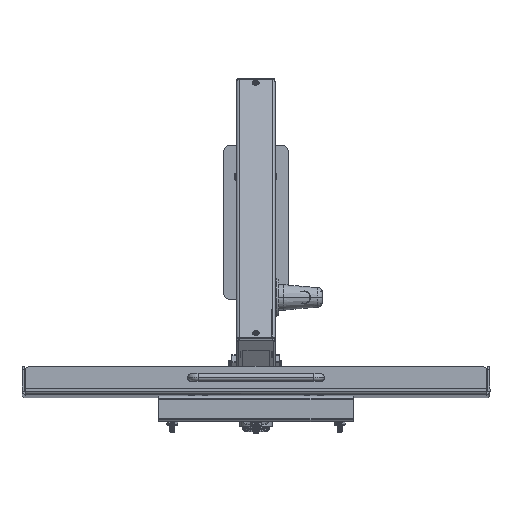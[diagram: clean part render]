
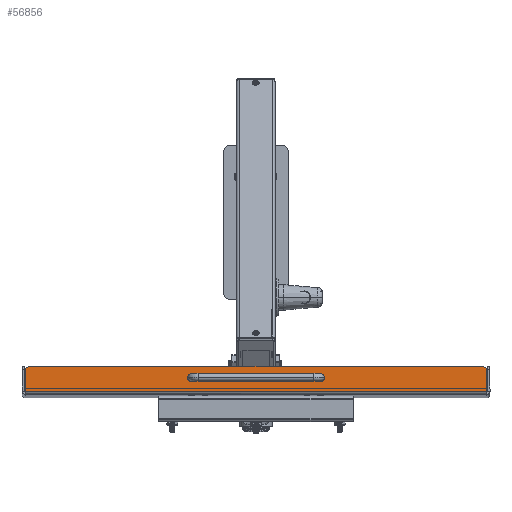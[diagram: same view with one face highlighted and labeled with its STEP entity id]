
A CAD part, top view. The second image highlights one B-rep face of the part: STEP entity #56856.
In plain terms, the highlighted planar face has unit normal (0, 0.01, 1) as drawn and (0, 0, 1) by its records, which use the part's own axes.
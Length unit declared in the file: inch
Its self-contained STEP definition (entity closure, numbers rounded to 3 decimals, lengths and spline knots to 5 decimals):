
#89 = ORIENTED_EDGE ( 'NONE', *, *, #13319, .F. ) ;
#914 = DIRECTION ( 'NONE',  ( 0., 0., -1. ) ) ;
#2258 = AXIS2_PLACEMENT_3D ( 'NONE', #13916, #48762, #70318 ) ;
#2276 = CIRCLE ( 'NONE', #57933, 0.25 ) ;
#3273 = EDGE_CURVE ( 'NONE', #5293, #90556, #36046, .T. ) ;
#4610 = VERTEX_POINT ( 'NONE', #73551 ) ;
#4622 = DIRECTION ( 'NONE',  ( -1., 0., 0. ) ) ;
#5180 = ORIENTED_EDGE ( 'NONE', *, *, #22676, .F. ) ;
#5293 = VERTEX_POINT ( 'NONE', #59599 ) ;
#6379 = LINE ( 'NONE', #13265, #66486 ) ;
#6605 = AXIS2_PLACEMENT_3D ( 'NONE', #15968, #43966, #22844 ) ;
#7361 = CARTESIAN_POINT ( 'NONE',  ( 8.96464, 0.032, 6.09 ) ) ;
#7598 = ORIENTED_EDGE ( 'NONE', *, *, #55041, .F. ) ;
#8336 = DIRECTION ( 'NONE',  ( 0., -1., 0. ) ) ;
#9438 = AXIS2_PLACEMENT_3D ( 'NONE', #34922, #76621, #42729 ) ;
#11834 = CARTESIAN_POINT ( 'NONE',  ( -8.75, 1., 6.09 ) ) ;
#12000 = CARTESIAN_POINT ( 'NONE',  ( 8.75, 1., 6.09 ) ) ;
#12210 = EDGE_CURVE ( 'NONE', #32648, #40557, #43191, .T. ) ;
#13265 = CARTESIAN_POINT ( 'NONE',  ( 8.75, 0.032, 6.09 ) ) ;
#13319 = EDGE_CURVE ( 'NONE', #63788, #42530, #2276, .T. ) ;
#13916 = CARTESIAN_POINT ( 'NONE',  ( 2.5, 0.55, 6.09 ) ) ;
#14560 = EDGE_CURVE ( 'NONE', #90556, #5293, #68094, .T. ) ;
#14884 = CARTESIAN_POINT ( 'NONE',  ( -8.75, 0.75, 6.09 ) ) ;
#15968 = CARTESIAN_POINT ( 'NONE',  ( 8.75, 0.75, 6.09 ) ) ;
#16052 = LINE ( 'NONE', #29363, #80043 ) ;
#17376 = CARTESIAN_POINT ( 'NONE',  ( -2.5, 0.55, 6.09 ) ) ;
#22289 = VERTEX_POINT ( 'NONE', #12000 ) ;
#22460 = CARTESIAN_POINT ( 'NONE',  ( 8.75, 0.75, 6.09 ) ) ;
#22676 = EDGE_CURVE ( 'NONE', #42530, #22289, #16052, .T. ) ;
#22844 = DIRECTION ( 'NONE',  ( 0., -1., 0. ) ) ;
#23570 = CARTESIAN_POINT ( 'NONE',  ( -8.96464, 0.87817, 6.09 ) ) ;
#25300 = VECTOR ( 'NONE', #78649, 39.37008 ) ;
#25571 = AXIS2_PLACEMENT_3D ( 'NONE', #22460, #914, #49989 ) ;
#26366 = ORIENTED_EDGE ( 'NONE', *, *, #57818, .T. ) ;
#28341 = CIRCLE ( 'NONE', #79595, 0.1005 ) ;
#29363 = CARTESIAN_POINT ( 'NONE',  ( 8.75, 1., 6.09 ) ) ;
#29408 = CARTESIAN_POINT ( 'NONE',  ( 8.96464, 0.75, 6.09 ) ) ;
#29491 = EDGE_LOOP ( 'NONE', ( #81113, #7598, #5180, #89, #39555, #26366 ) ) ;
#29533 = EDGE_CURVE ( 'NONE', #63788, #84115, #30511, .T. ) ;
#30511 = LINE ( 'NONE', #43834, #25300 ) ;
#32648 = VERTEX_POINT ( 'NONE', #79772 ) ;
#34922 = CARTESIAN_POINT ( 'NONE',  ( -2.5, 0.55, 6.09 ) ) ;
#35968 = DIRECTION ( 'NONE',  ( 0., 0., -1. ) ) ;
#36046 = CIRCLE ( 'NONE', #79942, 0.1005 ) ;
#38850 = EDGE_CURVE ( 'NONE', #68184, #4610, #28341, .T. ) ;
#39053 = DIRECTION ( 'NONE',  ( 0., 0., -1. ) ) ;
#39555 = ORIENTED_EDGE ( 'NONE', *, *, #29533, .T. ) ;
#40557 = VERTEX_POINT ( 'NONE', #7361 ) ;
#42172 = DIRECTION ( 'NONE',  ( 1., 0., 0. ) ) ;
#42530 = VERTEX_POINT ( 'NONE', #11834 ) ;
#42729 = DIRECTION ( 'NONE',  ( -1., 0., 0. ) ) ;
#43191 = LINE ( 'NONE', #29408, #50582 ) ;
#43834 = CARTESIAN_POINT ( 'NONE',  ( -8.96464, 0.75, 6.09 ) ) ;
#43966 = DIRECTION ( 'NONE',  ( 0., 0., 1. ) ) ;
#47455 = CIRCLE ( 'NONE', #9438, 0.1005 ) ;
#48762 = DIRECTION ( 'NONE',  ( 0., 0., -1. ) ) ;
#49989 = DIRECTION ( 'NONE',  ( 0., -1., 0. ) ) ;
#50582 = VECTOR ( 'NONE', #8336, 39.37008 ) ;
#51146 = EDGE_LOOP ( 'NONE', ( #82849, #79387 ) ) ;
#51309 = DIRECTION ( 'NONE',  ( -1., 0., 0. ) ) ;
#55041 = EDGE_CURVE ( 'NONE', #22289, #32648, #89951, .T. ) ;
#56809 = FACE_OUTER_BOUND ( 'NONE', #29491, .T. ) ;
#56856 = ADVANCED_FACE ( 'NONE', ( #77868, #56809, #79233 ), #57696, .T. ) ;
#57060 = DIRECTION ( 'NONE',  ( 0., -1., 0. ) ) ;
#57201 = EDGE_CURVE ( 'NONE', #4610, #68184, #47455, .T. ) ;
#57696 = PLANE ( 'NONE',  #6605 ) ;
#57818 = EDGE_CURVE ( 'NONE', #84115, #40557, #6379, .T. ) ;
#57933 = AXIS2_PLACEMENT_3D ( 'NONE', #14884, #35968, #57060 ) ;
#59599 = CARTESIAN_POINT ( 'NONE',  ( 2.6005, 0.55, 6.09 ) ) ;
#60934 = CARTESIAN_POINT ( 'NONE',  ( 2.3995, 0.55, 6.09 ) ) ;
#63788 = VERTEX_POINT ( 'NONE', #23570 ) ;
#66486 = VECTOR ( 'NONE', #42172, 39.37008 ) ;
#68094 = CIRCLE ( 'NONE', #2258, 0.1005 ) ;
#68184 = VERTEX_POINT ( 'NONE', #77819 ) ;
#70259 = DIRECTION ( 'NONE',  ( 0., 0., -1. ) ) ;
#70318 = DIRECTION ( 'NONE',  ( -1., 0., 0. ) ) ;
#70987 = ORIENTED_EDGE ( 'NONE', *, *, #38850, .T. ) ;
#73092 = ORIENTED_EDGE ( 'NONE', *, *, #57201, .T. ) ;
#73551 = CARTESIAN_POINT ( 'NONE',  ( -2.6005, 0.55, 6.09 ) ) ;
#76621 = DIRECTION ( 'NONE',  ( 0., 0., -1. ) ) ;
#77819 = CARTESIAN_POINT ( 'NONE',  ( -2.3995, 0.55, 6.09 ) ) ;
#77868 = FACE_BOUND ( 'NONE', #84211, .T. ) ;
#78649 = DIRECTION ( 'NONE',  ( 0., -1., 0. ) ) ;
#78819 = CARTESIAN_POINT ( 'NONE',  ( -8.96464, 0.032, 6.09 ) ) ;
#79233 = FACE_BOUND ( 'NONE', #51146, .T. ) ;
#79387 = ORIENTED_EDGE ( 'NONE', *, *, #14560, .T. ) ;
#79595 = AXIS2_PLACEMENT_3D ( 'NONE', #17376, #70259, #51309 ) ;
#79772 = CARTESIAN_POINT ( 'NONE',  ( 8.96464, 0.87817, 6.09 ) ) ;
#79847 = CARTESIAN_POINT ( 'NONE',  ( 2.5, 0.55, 6.09 ) ) ;
#79942 = AXIS2_PLACEMENT_3D ( 'NONE', #79847, #39053, #4622 ) ;
#80043 = VECTOR ( 'NONE', #84381, 39.37008 ) ;
#81113 = ORIENTED_EDGE ( 'NONE', *, *, #12210, .F. ) ;
#82849 = ORIENTED_EDGE ( 'NONE', *, *, #3273, .T. ) ;
#84115 = VERTEX_POINT ( 'NONE', #78819 ) ;
#84211 = EDGE_LOOP ( 'NONE', ( #70987, #73092 ) ) ;
#84381 = DIRECTION ( 'NONE',  ( 1., 0., 0. ) ) ;
#89951 = CIRCLE ( 'NONE', #25571, 0.25 ) ;
#90556 = VERTEX_POINT ( 'NONE', #60934 ) ;
